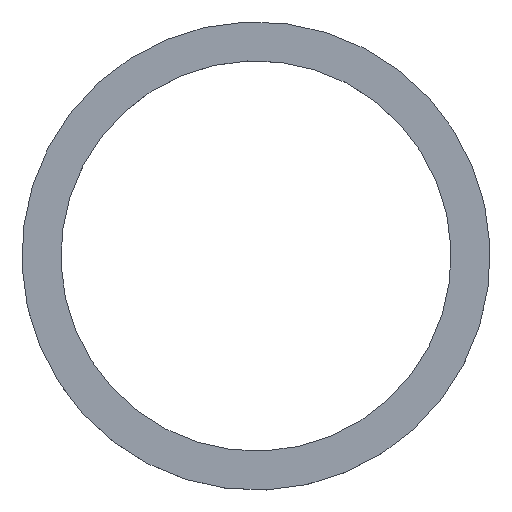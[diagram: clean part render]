
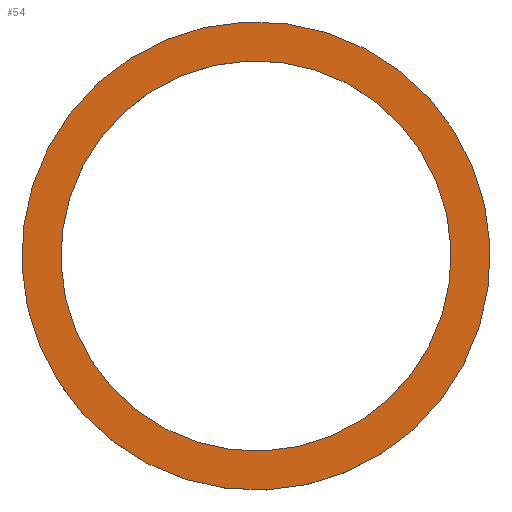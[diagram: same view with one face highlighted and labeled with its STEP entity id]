
A CAD part, top view. The second image highlights one B-rep face of the part: STEP entity #54.
In plain terms, the highlighted planar face has unit normal (0, 0, 1).
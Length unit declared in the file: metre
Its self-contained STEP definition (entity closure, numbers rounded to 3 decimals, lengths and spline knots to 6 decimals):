
#13=PLANE('',#74);
#18=ORIENTED_EDGE('',*,*,#22,.F.);
#19=ORIENTED_EDGE('',*,*,#25,.T.);
#22=EDGE_CURVE('',#26,#26,#30,.T.);
#25=EDGE_CURVE('',#29,#29,#33,.T.);
#26=VERTEX_POINT('',#98);
#29=VERTEX_POINT('',#106);
#30=CIRCLE('',#70,0.0025);
#33=CIRCLE('',#75,0.003);
#38=EDGE_LOOP('',(#18));
#39=EDGE_LOOP('',(#19));
#46=FACE_BOUND('',#38,.T.);
#47=FACE_BOUND('',#39,.T.);
#54=ADVANCED_FACE('',(#46,#47),#13,.T.);
#70=AXIS2_PLACEMENT_3D('',#97,#81,#82);
#74=AXIS2_PLACEMENT_3D('',#104,#89,#90);
#75=AXIS2_PLACEMENT_3D('',#105,#91,#92);
#81=DIRECTION('',(0.,0.,1.));
#82=DIRECTION('',(-0.383,0.924,0.));
#89=DIRECTION('',(0.,0.,1.));
#90=DIRECTION('',(-0.383,0.924,0.));
#91=DIRECTION('',(0.,0.,1.));
#92=DIRECTION('',(-0.383,0.924,0.));
#97=CARTESIAN_POINT('',(-0.005798,-0.024952,0.187323));
#98=CARTESIAN_POINT('',(-0.006756,-0.022642,0.187323));
#104=CARTESIAN_POINT('',(-0.005798,-0.024952,0.187323));
#105=CARTESIAN_POINT('',(-0.005798,-0.024952,0.187323));
#106=CARTESIAN_POINT('',(-0.006947,-0.02218,0.187323));
